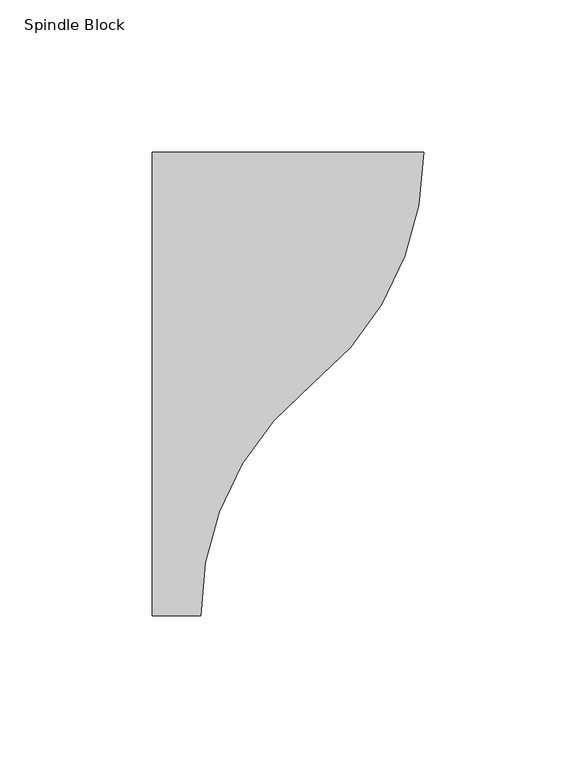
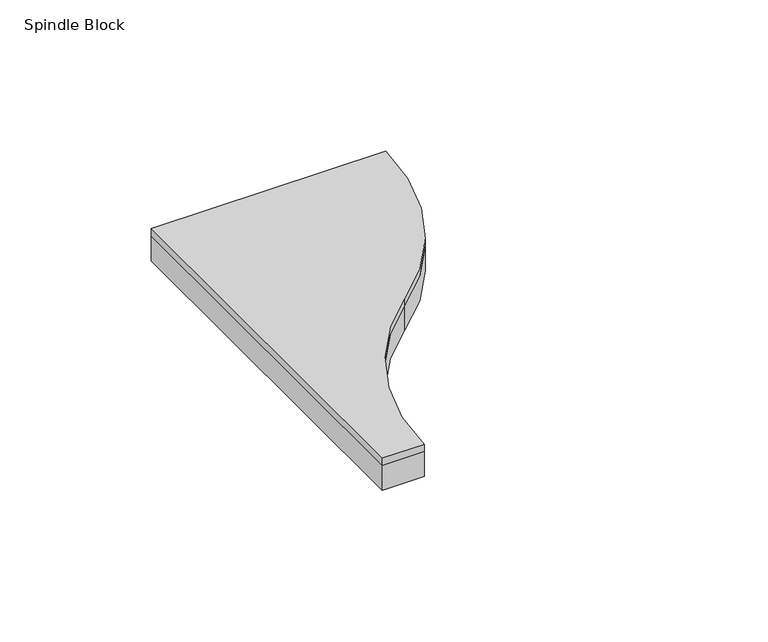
"""IFC4 building model written with IfcOpenShell, lengths in millimetres: proxy geometry, FilzFelt_Spindle_Block : Spindle Block."""

from ifc_helpers import new_model, si_unit, point, frame, frame_2d, origin, origin_with_axes, place, context, project, spatial, polyline, circle_curve, trimmed, segment, composite_curve, outline, extrude, source, transform, mapped, element, save


def spindle_block_8c0b6001(model_context):
    return source(origin(), model_context, "Body", "SweptSolid", [
        extrude(outline(composite_curve([segment(trimmed(circle_curve(frame_2d((-8.2776003, 0.0)), 97.5776355), [point((89.3000352, 0.0))], [point((52.6102676, -76.25))], False, "CARTESIAN"), True, "CONTINUOUS"), segment(trimmed(circle_curve(frame_2d((113.4981354, -152.5)), 97.5776355), [point((52.6102676, -76.25))], [point((15.9204999, -152.5))], True, "CARTESIAN"), True, "CONTINUOUS"), segment(polyline([(15.9204999, -152.5), (0.0, -152.5), (0.0, 0.0), (89.3000352, 0.0)]), True, "CONTINUOUS")], self_intersect=False)), frame((0.0, 0.0, 10.0210937), z_axis=(0.0, 0.0, 1.0), x_axis=(1.0, 0.0, 0.0)), (0.0, 0.0, 1.0), 2.9765625),
        extrude(outline(composite_curve([segment(trimmed(circle_curve(frame_2d((-8.2776003, 0.0)), 97.5776355), [point((89.3000352, 0.0))], [point((52.6102676, -76.25))], False, "CARTESIAN"), True, "CONTINUOUS"), segment(trimmed(circle_curve(frame_2d((113.4981354, -152.5)), 97.5776355), [point((52.6102676, -76.25))], [point((15.9204999, -152.5))], True, "CARTESIAN"), True, "CONTINUOUS"), segment(polyline([(15.9204999, -152.5), (0.0, -152.5), (0.0, 0.0), (89.3000352, 0.0)]), True, "CONTINUOUS")], self_intersect=False)), origin_with_axes(), (0.0, 0.0, 1.0), 10.0210938),
    ])


if __name__ == "__main__":
    model = new_model("IFC4")
    model_context = context("Model", 3, world=origin())
    ifc_project = project(units=[si_unit("LENGTHUNIT", "METRE", prefix="MILLI")], contexts=[model_context])
    site = spatial("IfcSite", under=ifc_project)
    building = spatial("IfcBuilding", under=site)
    placement = place(None, origin())
    spindle_block_shape = spindle_block_8c0b6001(model_context)
    element("IfcBuildingElementProxy", 1, Name="FilzFelt_Spindle_Block : Spindle Block", ObjectType="FilzFelt_Spindle_Block : Spindle Block", at=placement, inside=building, context=model_context, shape_type="MappedRepresentation", body=[
        mapped(spindle_block_shape, transform((0.0, 0.0, 0.0), x_axis=(1.0, 0.0, 0.0), y_axis=(0.0, 1.0, 0.0), z_axis=(0.0, 0.0, 1.0))),
    ])
    save(model, "model.ifc")
